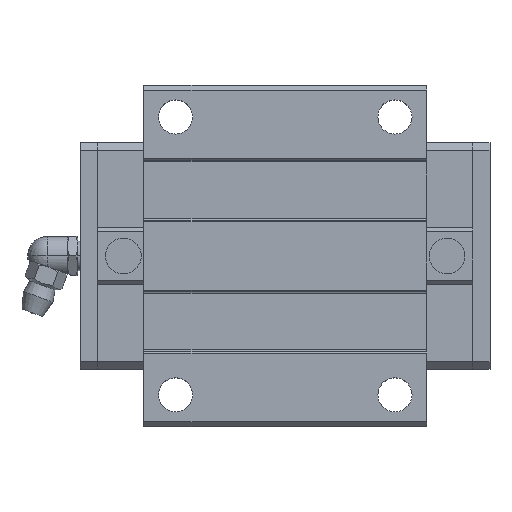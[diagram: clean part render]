
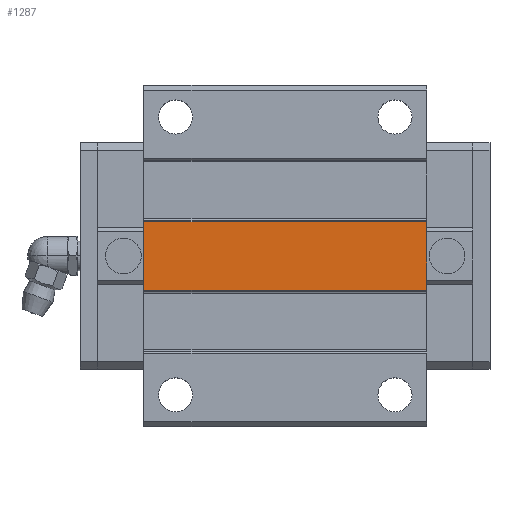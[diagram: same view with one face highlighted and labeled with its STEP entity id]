
A CAD part, top view. The second image highlights one B-rep face of the part: STEP entity #1287.
In plain terms, the highlighted planar face has unit normal (0, 0, 1).
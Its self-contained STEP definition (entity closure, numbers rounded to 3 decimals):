
#1226=CARTESIAN_POINT('POINT87',(71.,-7.013,30.5));
#1227=VERTEX_POINT('VERTEX87',#1226);
#1234=CARTESIAN_POINT('POINT88',(13.,-7.013,30.5));
#1235=VERTEX_POINT('VERTEX88',#1234);
#1236=CARTESIAN_POINT('POS124',(13.,-7.013,30.5));
#1237=DIRECTION('DIR178',(1.,0.,0.));
#1238=VECTOR('VEC70',#1237,1.);
#1239=LINE('STRAIGHT70',#1236,#1238);
#1240=EDGE_CURVE('EDGE118',#1235,#1227,#1239,.T.);
#1257=CARTESIAN_POINT('POINT89',(71.,7.,30.5));
#1258=VERTEX_POINT('VERTEX89',#1257);
#1259=CARTESIAN_POINT('POS127',(71.,7.,30.5));
#1260=DIRECTION('DIR182',(0.,1.,0.));
#1261=VECTOR('VEC72',#1260,1.);
#1262=LINE('STRAIGHT72',#1259,#1261);
#1263=EDGE_CURVE('EDGE120',#1227,#1258,#1262,.T.);
#1264=ORIENTED_EDGE('COEDGE179',*,*,#1263,.T.);
#1265=CARTESIAN_POINT('POINT90',(13.,7.,30.5));
#1266=VERTEX_POINT('VERTEX90',#1265);
#1267=CARTESIAN_POINT('POS128',(13.,7.,30.5));
#1268=DIRECTION('DIR183',(1.,0.,0.));
#1269=VECTOR('VEC73',#1268,1.);
#1270=LINE('STRAIGHT73',#1267,#1269);
#1271=EDGE_CURVE('EDGE121',#1266,#1258,#1270,.T.);
#1272=ORIENTED_EDGE('COEDGE180',*,*,#1271,.F.);
#1273=CARTESIAN_POINT('POS129',(13.,7.,30.5));
#1274=DIRECTION('DIR184',(0.,-1.,0.));
#1275=VECTOR('VEC74',#1274,1.);
#1276=LINE('STRAIGHT74',#1273,#1275);
#1277=EDGE_CURVE('EDGE122',#1266,#1235,#1276,.T.);
#1278=ORIENTED_EDGE('COEDGE181',*,*,#1277,.T.);
#1279=ORIENTED_EDGE('COEDGE182',*,*,#1240,.T.);
#1280=EDGE_LOOP('NONE',(#1264,#1272,#1278,#1279));
#1281=FACE_BOUND('LOOP1',#1280,.T.);
#1282=CARTESIAN_POINT('POS130',(13.,-7.013,30.5));
#1283=DIRECTION('DIR185',(0.,0.,1.));
#1284=DIRECTION('DIR186',(1.,0.,0.));
#1285=AXIS2_PLACEMENT_3D('AXIS56',#1282,#1283,#1284);
#1286=PLANE('PLANE16',#1285);
#1287=ADVANCED_FACE('FACE36',(#1281),#1286,.T.);
